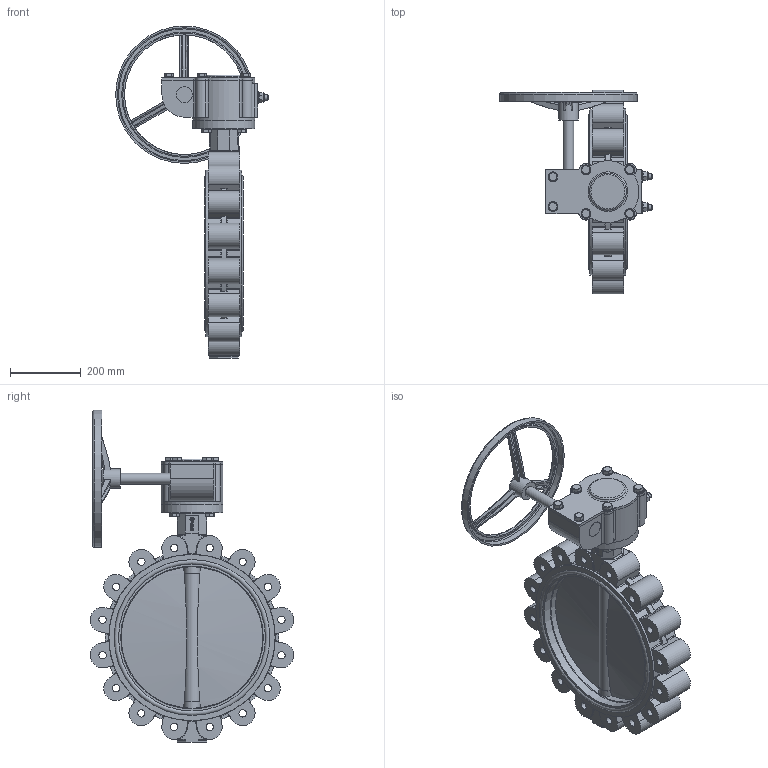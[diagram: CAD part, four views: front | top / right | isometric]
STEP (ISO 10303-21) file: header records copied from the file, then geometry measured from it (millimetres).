
FILE_DESCRIPTION(('STEP AP242'), '1');
FILE_NAME('Ïîâîðîòíûé çàòâîð ïîä ýëåêòðîïðèâîä', '', ('UNSPECIFIED'), ('UNSPECIFIED'), 'C3D Converter', 'C3D Toolkit', '');
FILE_SCHEMA(('AP242_MANAGED_MODEL_BASED_3D_ENGINEERING_MIM_LF { 1 0 10303 442 1 1 4 }'));
Length unit declared in the file: millimetre
Products named in the file (17): П
Assembly tree (36 placements, depth 3):
  (unnamed)
    (unnamed)
    П  x2
    (unnamed)
    (unnamed)
    (unnamed)
    (unnamed)
      (unnamed)
      (unnamed)
      (unnamed)
      (unnamed)
      (unnamed)  x6
      (unnamed)  x6
      (unnamed)  x2
      (unnamed)  x2
      (unnamed)
    (unnamed)  x4
    (unnamed)  x4
Bounding box: 431 x 575.09 x 937.5 mm (x, y, z)
Volume: 19384255.5 mm3; surface area: 2183940.1 mm2
Topology: 35 solids, 35 shells, 1150 faces, 2799 edges, 1777 vertices
Faces by surface type: plane 475, cylinder 326, torus 129, extrusion 119, bspline 53, cone 44, sphere 4
Full cylindrical faces by diameter (mm): 6 x2, 11.421 x1, 14.376 x2, 16 x30, 17 x10, 18 x4, 20.752 x16, 28 x10, 30 x3, 36 x5, 39.6 x1, 45 x2, 48.45 x4, 50.912 x5, 55 x1, 175 x2, 338 x1, 348 x1, 378 x1, 388 x1, 400 x1, 403 x2, 415 x2, 427.5 x4, 440 x4, 469.633 x2
Entity records: 44222 total; most frequent: CARTESIAN_POINT 18317, ORIENTED_EDGE 4696, DIRECTION 4433, EDGE_CURVE 2348, AXIS2_PLACEMENT_3D 1647, VERTEX_POINT 1571, EDGE_LOOP 1233, VECTOR 1139
